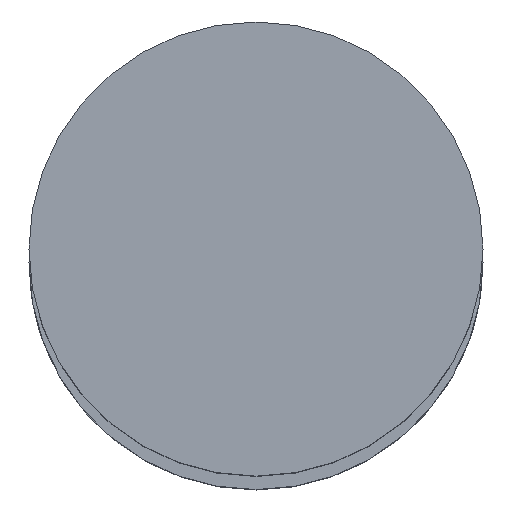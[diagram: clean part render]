
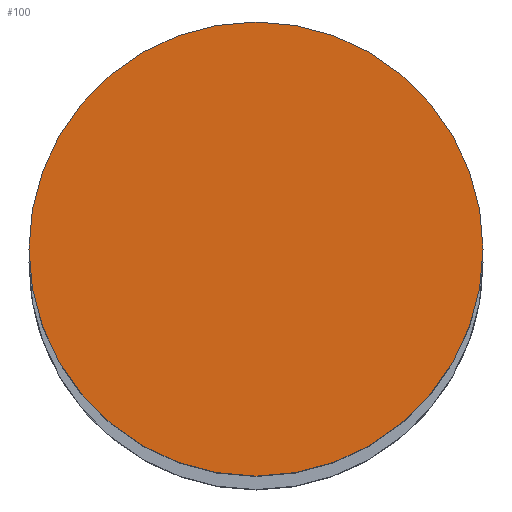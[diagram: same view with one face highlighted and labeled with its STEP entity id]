
A CAD part, top view. The second image highlights one B-rep face of the part: STEP entity #100.
In plain terms, the highlighted planar face has unit normal (0, 0, 1).
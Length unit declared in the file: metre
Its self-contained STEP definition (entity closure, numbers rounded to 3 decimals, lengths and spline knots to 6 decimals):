
#100=ADVANCED_FACE('25:217',(#193),#194,.T.);
#193=FACE_OUTER_BOUND('',#280,.T.);
#194=PLANE('',#281);
#280=EDGE_LOOP('',(#455,#456));
#281=AXIS2_PLACEMENT_3D('',#457,#458,#459);
#455=ORIENTED_EDGE('',*,*,#546,.F.);
#456=ORIENTED_EDGE('',*,*,#504,.F.);
#457=CARTESIAN_POINT('',(0.0,0.0,3.194));
#458=DIRECTION('',(0.0,0.0,1.0));
#459=DIRECTION('',(1.0,0.0,0.0));
#504=EDGE_CURVE('',#599,#601,#602,.F.);
#546=EDGE_CURVE('',#601,#599,#661,.F.);
#599=VERTEX_POINT('',#724);
#601=VERTEX_POINT('',#727);
#602=CIRCLE('',#728,0.0155);
#661=CIRCLE('',#799,0.0155);
#724=CARTESIAN_POINT('',(0.015408,0.000095,3.194));
#727=CARTESIAN_POINT('',(-0.015592,0.000095,3.194));
#728=AXIS2_PLACEMENT_3D('',#858,#859,#860);
#799=AXIS2_PLACEMENT_3D('',#924,#925,#926);
#858=CARTESIAN_POINT('',(-0.000092,0.000095,3.194));
#859=DIRECTION('',(0.0,0.0,1.0));
#860=DIRECTION('',(1.0,0.0,0.0));
#924=CARTESIAN_POINT('',(-0.000092,0.000095,3.194));
#925=DIRECTION('',(0.0,0.0,1.0));
#926=DIRECTION('',(1.0,0.0,0.0));
